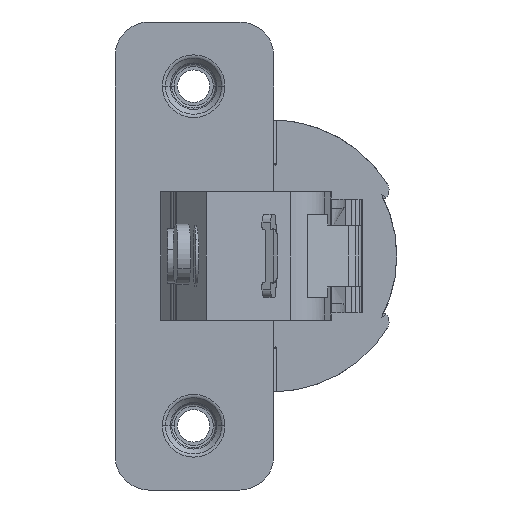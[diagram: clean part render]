
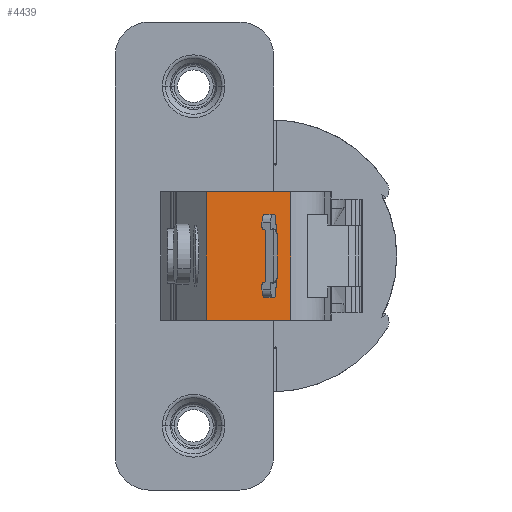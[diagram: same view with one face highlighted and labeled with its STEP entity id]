
A CAD part, left-side view. The second image highlights one B-rep face of the part: STEP entity #4439.
In plain terms, the highlighted planar face has unit normal (-0.997, -0.081, 0).
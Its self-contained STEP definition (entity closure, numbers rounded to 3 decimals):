
#39 = CARTESIAN_POINT ( 'NONE',  ( -79.209, 26.131, -3.133 ) ) ;
#99 = AXIS2_PLACEMENT_3D ( 'NONE', #4968, #7849, #7807 ) ;
#261 = CARTESIAN_POINT ( 'NONE',  ( -78.423, 16.443, 9.467 ) ) ;
#297 = LINE ( 'NONE', #5901, #6980 ) ;
#323 = CARTESIAN_POINT ( 'NONE',  ( -79.33, 27.627, 9.467 ) ) ;
#541 = CARTESIAN_POINT ( 'NONE',  ( -78.36, 15.673, 9.467 ) ) ;
#623 = LINE ( 'NONE', #6827, #2329 ) ;
#733 = DIRECTION ( 'NONE',  ( 0., 0., 1. ) ) ;
#867 = LINE ( 'NONE', #4209, #2573 ) ;
#985 = VERTEX_POINT ( 'NONE', #3418 ) ;
#992 = ORIENTED_EDGE ( 'NONE', *, *, #3906, .T. ) ;
#1033 = ORIENTED_EDGE ( 'NONE', *, *, #4078, .F. ) ;
#1871 = CARTESIAN_POINT ( 'NONE',  ( -78.577, 18.348, -3.133 ) ) ;
#2125 = CARTESIAN_POINT ( 'NONE',  ( -79.209, 26.131, 5.067 ) ) ;
#2129 = VERTEX_POINT ( 'NONE', #4337 ) ;
#2138 = CARTESIAN_POINT ( 'NONE',  ( -79.33, 27.627, 9.467 ) ) ;
#2174 = PLANE ( 'NONE',  #99 ) ;
#2240 = DIRECTION ( 'NONE',  ( -0.081, 0.997, 0. ) ) ;
#2329 = VECTOR ( 'NONE', #9022, 1000. ) ;
#2573 = VECTOR ( 'NONE', #733, 1000. ) ;
#2729 = VECTOR ( 'NONE', #4511, 1000. ) ;
#2775 = CARTESIAN_POINT ( 'NONE',  ( -78.675, 19.547, 5.067 ) ) ;
#3009 = CARTESIAN_POINT ( 'NONE',  ( -79.413, 28.65, -7.533 ) ) ;
#3230 = CARTESIAN_POINT ( 'NONE',  ( -78.675, 19.547, -3.133 ) ) ;
#3284 = EDGE_CURVE ( 'NONE', #3492, #985, #867, .T. ) ;
#3418 = CARTESIAN_POINT ( 'NONE',  ( -78.577, 18.348, 5.067 ) ) ;
#3492 = VERTEX_POINT ( 'NONE', #1871 ) ;
#3557 = DIRECTION ( 'NONE',  ( -0.081, 0.997, 0. ) ) ;
#3727 = EDGE_CURVE ( 'NONE', #3801, #7973, #297, .T. ) ;
#3801 = VERTEX_POINT ( 'NONE', #261 ) ;
#3906 = EDGE_CURVE ( 'NONE', #3801, #8875, #5355, .T. ) ;
#3965 = VECTOR ( 'NONE', #3557, 1000. ) ;
#4078 = EDGE_CURVE ( 'NONE', #2129, #8875, #6269, .T. ) ;
#4209 = CARTESIAN_POINT ( 'NONE',  ( -78.577, 18.348, -85.824 ) ) ;
#4273 = DIRECTION ( 'NONE',  ( 0.081, -0.997, 0. ) ) ;
#4326 = VECTOR ( 'NONE', #4752, 1000. ) ;
#4337 = CARTESIAN_POINT ( 'NONE',  ( -79.33, 27.627, -7.533 ) ) ;
#4439 = ADVANCED_FACE ( 'NONE', ( #4828, #5567 ), #2174, .F. ) ;
#4511 = DIRECTION ( 'NONE',  ( 0., 0., 1. ) ) ;
#4686 = VECTOR ( 'NONE', #4273, 1000. ) ;
#4746 = ORIENTED_EDGE ( 'NONE', *, *, #6587, .F. ) ;
#4752 = DIRECTION ( 'NONE',  ( -0.081, 0.997, 0. ) ) ;
#4760 = CARTESIAN_POINT ( 'NONE',  ( -78.423, 16.443, -7.533 ) ) ;
#4828 = FACE_BOUND ( 'NONE', #5756, .T. ) ;
#4872 = EDGE_CURVE ( 'NONE', #3492, #8662, #4944, .T. ) ;
#4939 = ORIENTED_EDGE ( 'NONE', *, *, #3727, .F. ) ;
#4944 = LINE ( 'NONE', #39, #8306 ) ;
#4968 = CARTESIAN_POINT ( 'NONE',  ( -78.36, 15.673, -19.533 ) ) ;
#5033 = LINE ( 'NONE', #3009, #3965 ) ;
#5355 = LINE ( 'NONE', #541, #4326 ) ;
#5567 = FACE_OUTER_BOUND ( 'NONE', #8510, .T. ) ;
#5756 = EDGE_LOOP ( 'NONE', ( #4746, #8885, #7745, #6210 ) ) ;
#5901 = CARTESIAN_POINT ( 'NONE',  ( -78.423, 16.443, -23.533 ) ) ;
#6210 = ORIENTED_EDGE ( 'NONE', *, *, #4872, .T. ) ;
#6269 = LINE ( 'NONE', #2138, #2729 ) ;
#6587 = EDGE_CURVE ( 'NONE', #8464, #8662, #623, .T. ) ;
#6827 = CARTESIAN_POINT ( 'NONE',  ( -78.675, 19.547, -85.824 ) ) ;
#6980 = VECTOR ( 'NONE', #8739, 1000. ) ;
#7239 = ORIENTED_EDGE ( 'NONE', *, *, #8092, .F. ) ;
#7276 = EDGE_CURVE ( 'NONE', #8464, #985, #7804, .T. ) ;
#7745 = ORIENTED_EDGE ( 'NONE', *, *, #3284, .F. ) ;
#7804 = LINE ( 'NONE', #2125, #4686 ) ;
#7807 = DIRECTION ( 'NONE',  ( 0., 0., -1. ) ) ;
#7849 = DIRECTION ( 'NONE',  ( 0.997, 0.081, 0. ) ) ;
#7973 = VERTEX_POINT ( 'NONE', #4760 ) ;
#8092 = EDGE_CURVE ( 'NONE', #7973, #2129, #5033, .T. ) ;
#8306 = VECTOR ( 'NONE', #2240, 1000. ) ;
#8464 = VERTEX_POINT ( 'NONE', #2775 ) ;
#8510 = EDGE_LOOP ( 'NONE', ( #1033, #7239, #4939, #992 ) ) ;
#8662 = VERTEX_POINT ( 'NONE', #3230 ) ;
#8739 = DIRECTION ( 'NONE',  ( 0., 0., -1. ) ) ;
#8875 = VERTEX_POINT ( 'NONE', #323 ) ;
#8885 = ORIENTED_EDGE ( 'NONE', *, *, #7276, .T. ) ;
#9022 = DIRECTION ( 'NONE',  ( 0., 0., -1. ) ) ;
